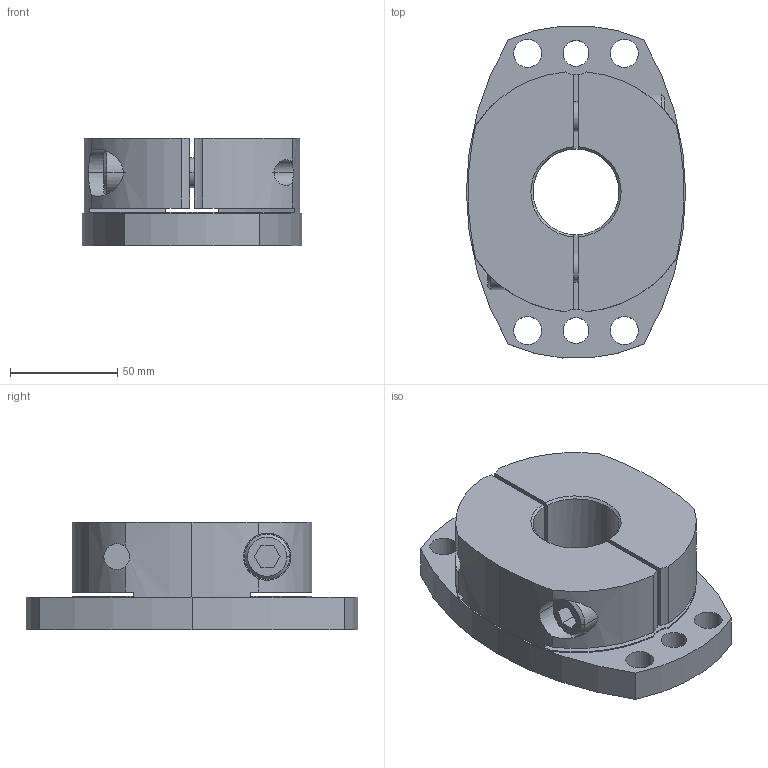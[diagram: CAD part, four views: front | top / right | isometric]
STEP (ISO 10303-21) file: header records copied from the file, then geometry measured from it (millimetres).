
FILE_DESCRIPTION((''),'2;1');
FILE_NAME('SHDB-155B-40.stp','2026-01-28T08:58:46',(''),(''),'AutoCAD STEP 2000i','AutoCAD 2000i',', , ');
FILE_SCHEMA(('CONFIG_CONTROL_DESIGN'));
Length unit declared in the file: millimetre
Products named in the file (2): SHDB-155B-35; 忣兜1
Assembly tree (1 placements, depth 2):
  SHDB-155B-35
    忣兜1
Bounding box: 102 x 154.46 x 50 mm (x, y, z)
Volume: 427669.2 mm3; surface area: 71030.5 mm2
Topology: 1 solids, 1 shells, 102 faces, 280 edges, 184 vertices
Faces by surface type: cylinder 58, plane 34, cone 10
Entity records: 3723 total; most frequent: CARTESIAN_POINT 896, DIRECTION 602, ORIENTED_EDGE 560, EDGE_CURVE 280, AXIS2_PLACEMENT_3D 238, VERTEX_POINT 184, CIRCLE 134, VECTOR 126
